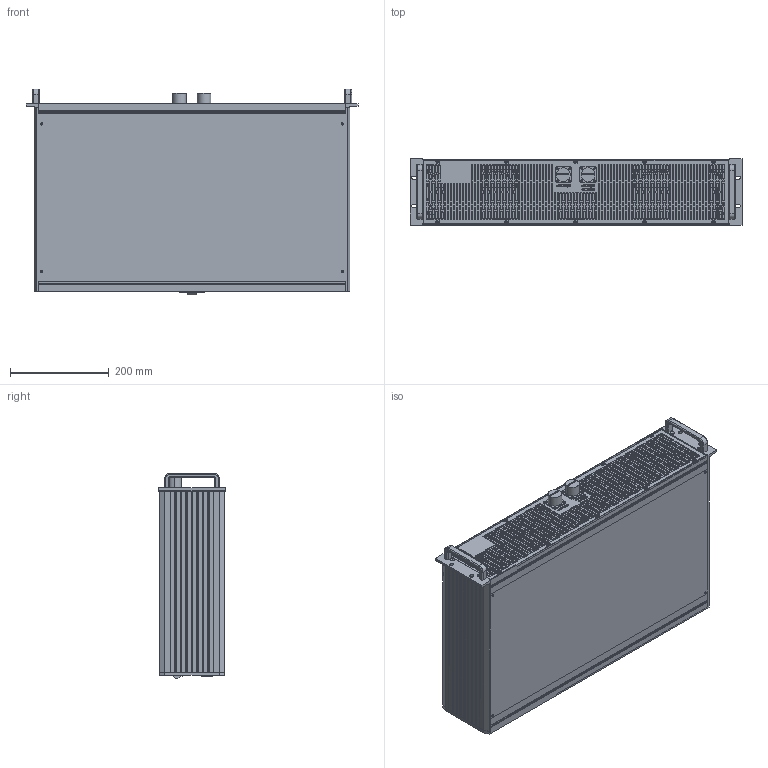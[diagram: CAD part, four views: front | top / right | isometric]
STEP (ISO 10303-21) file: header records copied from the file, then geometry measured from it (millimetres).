
FILE_DESCRIPTION (( 'STEP AP203' ), '1' );
FILE_NAME ('E82.C256K-J-鼎萇儂眊.STEP', '2025-07-16T08:09:37', ( 'China' ), ( 'Home' ), 'SwSTEP 2.0', 'SolidWorks 2016', '' );
FILE_SCHEMA (( 'CONFIG_CONTROL_DESIGN' ));
Length unit declared in the file: millimetre
Products named in the file (1): E82.C256K-J-鼎萇儂眊
Bounding box: 672.8 x 134 x 417.15 mm (x, y, z)
Surface area: 1863406.4 mm2 (no closed solid volume)
Topology: 0 solids, 138 shells, 2544 faces, 10885 edges, 8471 vertices
Faces by surface type: plane 1365, cylinder 1088, cone 52, bspline 21, torus 16, sphere 2
Entity records: 122656 total; most frequent: CARTESIAN_POINT 34444, DIRECTION 17863, ORIENTED_EDGE 15495, EDGE_CURVE 10885, VERTEX_POINT 8471, LINE 7023, VECTOR 7023, AXIS2_PLACEMENT_3D 5420
